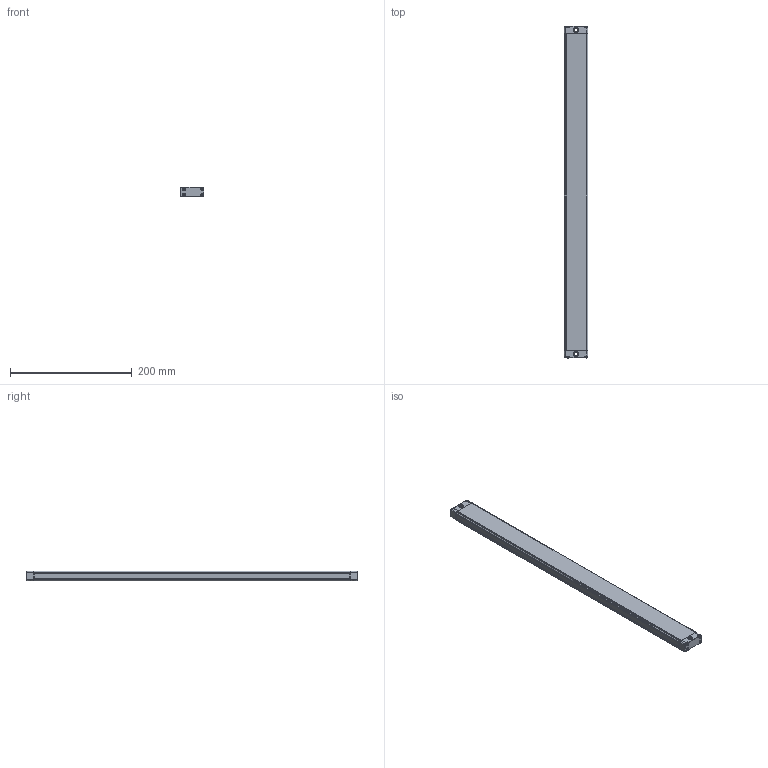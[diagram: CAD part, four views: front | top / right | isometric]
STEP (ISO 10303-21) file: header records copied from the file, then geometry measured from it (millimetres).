
FILE_DESCRIPTION((''),'2;1');
FILE_NAME('EB15--3610_ASM','2021-07-22T10:11:30',('18720616900'),(''),'CREO PARAMETRIC BY PTC INC, 2019010','CREO PARAMETRIC BY PTC INC, 2019010','');
FILE_SCHEMA(('CONFIG_CONTROL_DESIGN'));
Length unit declared in the file: millimetre
Products named in the file (6): EB15-00; EB15-000; EB15-0003; EB15-0004; ST-3-12; EB15--3610_ASM
Assembly tree (12 placements, depth 2):
  EB15--3610_ASM
    EB15-00
    EB15-000
    EB15-0003
    EB15-0004
    ST-3-12  x8
Bounding box: 39.15 x 545 x 15.8 mm (x, y, z)
Volume: 327192.4 mm3; surface area: 82062.6 mm2
Topology: 12 solids, 12 shells, 827 faces, 2188 edges, 1368 vertices
Faces by surface type: plane 242, bspline 188, cone 176, cylinder 165, torus 40, sphere 16
Entity records: 16044 total; most frequent: CARTESIAN_POINT 7660, ORIENTED_EDGE 1804, DIRECTION 1603, EDGE_CURVE 902, AXIS2_PLACEMENT_3D 577, VERTEX_POINT 563, VECTOR 449, LINE 449
